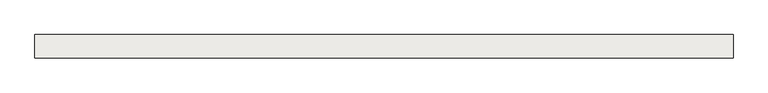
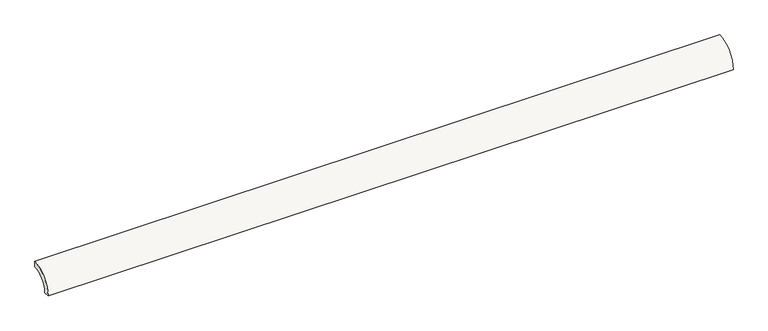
"""IFC4 building model written with IfcOpenShell, lengths in millimetres: slab geometry, ROSA GRES_183 : Pieza 183_Serena_Ocra_Anti-Slip."""

from ifc_helpers import new_model, si_unit, point, frame, frame_2d, origin, origin_2d, place, context, project, spatial, polyline, circle_curve, trimmed, segment, composite_curve, outline, extrude, source, transform, mapped, element, save


def slab_1945f17c(model_context):
    return source(origin(), model_context, "Body", "SweptSolid", [
        extrude(outline(composite_curve([segment(polyline([(0.0, 40.0), (0.0, 30.0265886)]), True, "CONTINUOUS"), segment(trimmed(circle_curve(frame_2d((-0.0044453, 0.0044453)), 30.0221435), [point((0.0, 30.0265886))], [point((-30.0265886, 0.0))], True, "CARTESIAN"), True, "CONTINUOUS"), segment(polyline([(-30.0265886, 0.0), (-40.0, 0.0)]), True, "CONTINUOUS"), segment(trimmed(circle_curve(origin_2d(), 40.0), [point((-40.0, 0.0))], [point((0.0, 40.0))], False, "CARTESIAN"), True, "CONTINUOUS")], self_intersect=False)), frame((0.0, 0.0, 0.0), z_axis=(1.0, 0.0, 0.0), x_axis=(0.0, 1.0, 0.0)), (0.0, 0.0, 1.0), 1200.0),
    ])


if __name__ == "__main__":
    model = new_model("IFC4")
    model_context = context("Model", 3, world=origin())
    ifc_project = project(units=[si_unit("LENGTHUNIT", "METRE", prefix="MILLI")], contexts=[model_context])
    site = spatial("IfcSite", under=ifc_project)
    building = spatial("IfcBuilding", under=site)
    placement = place(None, origin())
    slab_shape = slab_1945f17c(model_context)
    element("IfcSlab", 1, ObjectType="ROSA GRES_183 : Pieza 183_Serena_Ocra_Anti-Slip", at=placement, inside=building, context=model_context, shape_type="MappedRepresentation", body=[
        mapped(slab_shape, transform((0.0, 0.0, 0.0), x_axis=(1.0, 0.0, 0.0), y_axis=(0.0, 1.0, 0.0), z_axis=(0.0, 0.0, 1.0))),
    ])
    save(model, "model.ifc")
